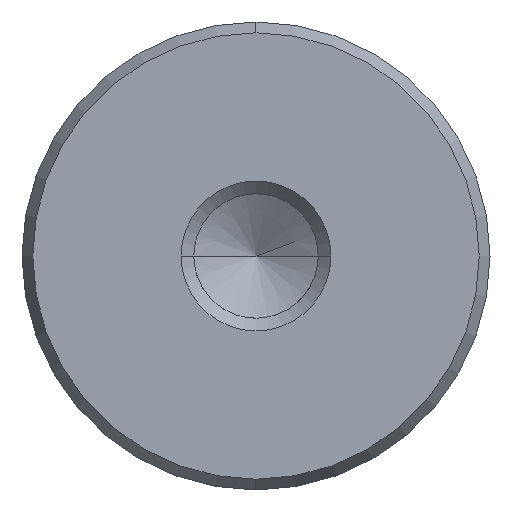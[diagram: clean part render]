
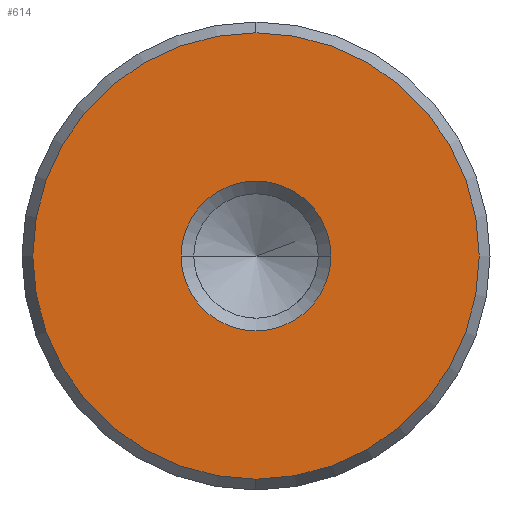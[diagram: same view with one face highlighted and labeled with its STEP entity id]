
A CAD part, left-side view. The second image highlights one B-rep face of the part: STEP entity #614.
In plain terms, the highlighted planar face has unit normal (-1, 0, 0).
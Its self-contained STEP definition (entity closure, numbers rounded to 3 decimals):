
#528=CARTESIAN_POINT('Vertex',(0.,0.,-11.923)) ;
#531=CARTESIAN_POINT('Axis2P3D Location',(0.,0.,0.)) ;
#535=CARTESIAN_POINT('Vertex',(0.,11.923,0.)) ;
#538=CARTESIAN_POINT('Axis2P3D Location',(0.,0.,0.)) ;
#542=CARTESIAN_POINT('Vertex',(0.,0.,11.923)) ;
#564=CARTESIAN_POINT('Axis2P3D Location',(0.,0.,0.)) ;
#568=CARTESIAN_POINT('Vertex',(0.,-11.923,0.)) ;
#571=CARTESIAN_POINT('Axis2P3D Location',(0.,0.,0.)) ;
#585=CARTESIAN_POINT('Axis2P3D Location',(0.,0.,0.)) ;
#596=CARTESIAN_POINT('Axis2P3D Location',(0.,0.,0.)) ;
#600=CARTESIAN_POINT('Vertex',(0.,4.,0.)) ;
#602=CARTESIAN_POINT('Vertex',(0.,-4.,0.)) ;
#605=CARTESIAN_POINT('Axis2P3D Location',(0.,0.,0.)) ;
#532=DIRECTION('Axis2P3D Direction',(1.,0.,-0.)) ;
#539=DIRECTION('Axis2P3D Direction',(1.,0.,-0.)) ;
#565=DIRECTION('Axis2P3D Direction',(1.,0.,-0.)) ;
#572=DIRECTION('Axis2P3D Direction',(1.,0.,-0.)) ;
#586=DIRECTION('Axis2P3D Direction',(1.,0.,-0.)) ;
#587=DIRECTION('Axis2P3D XDirection',(-0.,0.,-1.)) ;
#597=DIRECTION('Axis2P3D Direction',(1.,0.,-0.)) ;
#606=DIRECTION('Axis2P3D Direction',(1.,0.,-0.)) ;
#533=AXIS2_PLACEMENT_3D('Circle Axis2P3D',#531,#532,$) ;
#540=AXIS2_PLACEMENT_3D('Circle Axis2P3D',#538,#539,$) ;
#566=AXIS2_PLACEMENT_3D('Circle Axis2P3D',#564,#565,$) ;
#573=AXIS2_PLACEMENT_3D('Circle Axis2P3D',#571,#572,$) ;
#588=AXIS2_PLACEMENT_3D('Plane Axis2P3D',#585,#586,#587) ;
#598=AXIS2_PLACEMENT_3D('Circle Axis2P3D',#596,#597,$) ;
#607=AXIS2_PLACEMENT_3D('Circle Axis2P3D',#605,#606,$) ;
#591=ORIENTED_EDGE('',*,*,#537,.F.) ;
#592=ORIENTED_EDGE('',*,*,#575,.F.) ;
#593=ORIENTED_EDGE('',*,*,#570,.F.) ;
#594=ORIENTED_EDGE('',*,*,#544,.F.) ;
#611=ORIENTED_EDGE('',*,*,#604,.T.) ;
#612=ORIENTED_EDGE('',*,*,#609,.T.) ;
#613=FACE_BOUND('',#610,.T.) ;
#614=ADVANCED_FACE('720-25x180',(#595,#613),#589,.F.) ;
#534=CIRCLE('generated circle',#533,11.923) ;
#541=CIRCLE('generated circle',#540,11.923) ;
#567=CIRCLE('generated circle',#566,11.923) ;
#574=CIRCLE('generated circle',#573,11.923) ;
#599=CIRCLE('generated circle',#598,4.) ;
#608=CIRCLE('generated circle',#607,4.) ;
#537=EDGE_CURVE('',#529,#536,#534,.T.) ;
#544=EDGE_CURVE('',#536,#543,#541,.T.) ;
#570=EDGE_CURVE('',#543,#569,#567,.T.) ;
#575=EDGE_CURVE('',#569,#529,#574,.T.) ;
#604=EDGE_CURVE('',#601,#603,#599,.T.) ;
#609=EDGE_CURVE('',#603,#601,#608,.T.) ;
#590=EDGE_LOOP('',(#591,#592,#593,#594)) ;
#610=EDGE_LOOP('',(#611,#612)) ;
#595=FACE_OUTER_BOUND('',#590,.T.) ;
#589=PLANE('Plane',#588) ;
#529=VERTEX_POINT('',#528) ;
#536=VERTEX_POINT('',#535) ;
#543=VERTEX_POINT('',#542) ;
#569=VERTEX_POINT('',#568) ;
#601=VERTEX_POINT('',#600) ;
#603=VERTEX_POINT('',#602) ;
